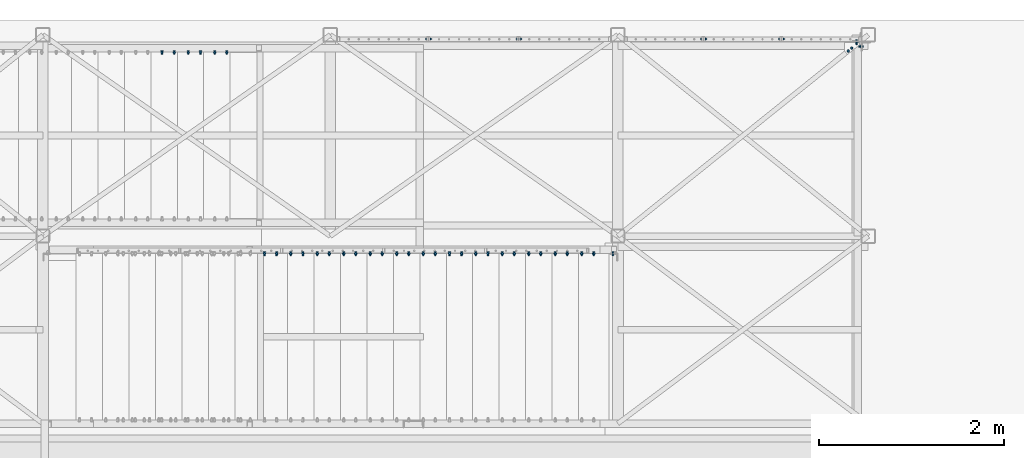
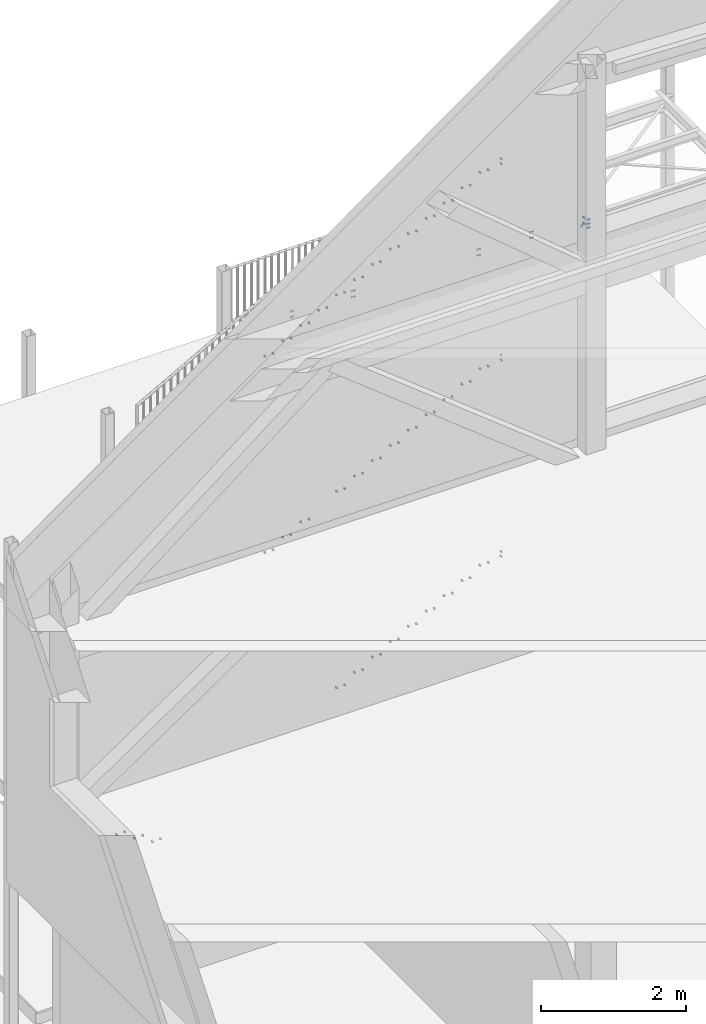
# One storey, part 76 of 78: 47 mechanical fasteners, 9 elements without a shape of their own.
"""IFC2X3 building model written with IfcOpenShell, lengths in millimetres."""

from ifc_helpers import new_model, si_unit, frame, origin_with_axes, origin_2d_with_axis, place, context, subcontext, project, spatial, polyline, circle, outline, extrude, source, transform, mapped, material, type_object, element, aggregate, save


model = new_model("IFC2X3")

# Units and contexts
model_context = context("Model", 3, precision=1e-05, world=origin_with_axes())
body_context = subcontext(model_context, "Body", "Model", "MODEL_VIEW")
ifc_project = project(units=[si_unit("LENGTHUNIT", "METRE", prefix="MILLI"), si_unit("AREAUNIT", "SQUARE_METRE"), si_unit("VOLUMEUNIT", "CUBIC_METRE"), si_unit("MASSUNIT", "GRAM", prefix="KILO"), si_unit("TIMEUNIT", "SECOND"), si_unit("PLANEANGLEUNIT", "RADIAN"), si_unit("SOLIDANGLEUNIT", "STERADIAN"), si_unit("THERMODYNAMICTEMPERATUREUNIT", "DEGREE_CELSIUS"), si_unit("LUMINOUSINTENSITYUNIT", "LUMEN")], contexts=[model_context])

# Site, building, storey
site_placement = place(None, origin_with_axes())
site = spatial("IfcSite", under=ifc_project, at=site_placement, Name="Site", CompositionType="ELEMENT")
building_placement = place(site_placement, origin_with_axes())
building = spatial("IfcBuilding", under=site, at=building_placement, Name="Undefined", CompositionType="ELEMENT")
storey_placement = place(building_placement, origin_with_axes())
storey = spatial("IfcBuildingStorey", under=building, at=storey_placement, Name="Undefined", CompositionType="ELEMENT", Elevation=0.0)

# Assembly, mechanical fastener
assembly_1_placement = place(storey_placement, origin_with_axes())
assembly_1 = element("IfcElementAssembly", 1, at=assembly_1_placement, inside=storey, Name="POUTRE", AssemblyPlace="NOTDEFINED", PredefinedType="RIGID_FRAME")
ifc_material_1 = material(Name="8.8")
mechanical_fastener_type = type_object("IfcMechanicalFastenerType", Name="Bolt assembly")
shared_shape_1 = source(origin_with_axes(), body_context, "Body", "SweptSolid", [
    extrude(circle(Radius=9.0, at=origin_2d_with_axis()), frame((0.0, -9.9, 0.0), z_axis=(0.0, 1.0, 0.0), x_axis=(1.0, 0.0, 0.0)), (0.0, 0.0, 1.0), 10.0),
    extrude(circle(Radius=9.0, at=origin_2d_with_axis()), frame((0.0, -0.0999999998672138, 0.0), z_axis=(0.0, 1.0, 0.0), x_axis=(1.0, 0.0, 0.0)), (0.0, 0.0, 1.0), 9.1),
    extrude(outline(polyline([(13.85640646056, 0.0), (6.92820323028, 12.0000000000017), (-6.92820323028, 12.0000000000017), (-13.85640646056, 0.0), (-6.92820323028, -12.0000000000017), (6.92820323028, -12.0000000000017), (13.85640646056, 0.0)])), frame((0.0, -23.4000000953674, 0.0), z_axis=(0.0, 1.0, 0.0), x_axis=(1.0, 0.0, 0.0)), (0.0, 0.0, 1.0), 10.0),
    extrude(circle(Radius=8.0, at=origin_2d_with_axis()), frame((0.0, -13.4000000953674, 0.0), z_axis=(0.0, 1.0, 0.0), x_axis=(1.0, 0.0, 0.0)), (0.0, 0.0, 1.0), 45.0),
    extrude(circle(Radius=18.5, at=origin_2d_with_axis()), frame((0.0, -13.4000000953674, 0.0), z_axis=(0.0, 1.0, 0.0), x_axis=(1.0, 0.0, 0.0)), (0.0, 0.0, 1.0), 3.4),
    extrude(circle(Radius=18.5, at=origin_2d_with_axis()), frame((0.0, 9.0, 0.0), z_axis=(0.0, 1.0, 0.0), x_axis=(1.0, 0.0, 0.0)), (0.0, 0.0, 1.0), 3.4),
    extrude(outline(polyline([(13.85640646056, 0.0), (6.92820323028, 12.0000000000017), (-6.92820323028, 12.0000000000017), (-13.85640646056, 0.0), (-6.92820323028, -12.0000000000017), (6.92820323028, -12.0000000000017), (13.85640646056, 0.0)])), frame((0.0, 12.4000000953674, 0.0), z_axis=(0.0, 1.0, 0.0), x_axis=(1.0, 0.0, 0.0)), (0.0, 0.0, 1.0), 14.8),
])
mechanical_fastener_1_placement = place(assembly_1_placement, frame((4073.56999999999, 32843.0, 156610.04), z_axis=(-1.0, 0.0, 0.0), x_axis=(0.0, 0.0, -1.0)))
mechanical_fastener_1 = element("IfcMechanicalFastener", 2, at=mechanical_fastener_1_placement, type_object=mechanical_fastener_type, material=ifc_material_1, Name="Bolt assembly", NominalDiameter=16.0, NominalLength=45.0, context=body_context, shape_type="MappedRepresentation", body=[
    mapped(shared_shape_1, transform((0.0, 0.0, 0.0))),
    mapped(shared_shape_1, transform((100.0, 0.0, 0.0))),
])
aggregate(assembly_1, [mechanical_fastener_1])

assembly_2_placement = place(storey_placement, origin_with_axes())
assembly_2 = element("IfcElementAssembly", 3, at=assembly_2_placement, inside=storey, Name="POUTRE", AssemblyPlace="NOTDEFINED", PredefinedType="RIGID_FRAME")
mechanical_fastener_2_placement = place(assembly_2_placement, frame((4123.56999999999, 32793.0, 156590.0400002), z_axis=(0.0, 1.0, 0.0), x_axis=(0.0, 0.0, -1.0)))
mechanical_fastener_2 = element("IfcMechanicalFastener", 4, at=mechanical_fastener_2_placement, type_object=mechanical_fastener_type, material=ifc_material_1, Name="Bolt assembly", NominalDiameter=16.0, NominalLength=45.0, context=body_context, shape_type="MappedRepresentation", body=[
    mapped(shared_shape_1, transform((0.0, 0.0, 0.0))),
    mapped(shared_shape_1, transform((70.0, 0.0, 0.0))),
    mapped(shared_shape_1, transform((140.0, 0.0, 0.0))),
])
aggregate(assembly_2, [mechanical_fastener_2])

# Assembly, mechanical fasteners
assembly_3_placement = place(storey_placement, origin_with_axes())
assembly_3 = element("IfcElementAssembly", 5, at=assembly_3_placement, inside=storey, Name="MAIN_COURANTE", AssemblyPlace="NOTDEFINED", PredefinedType="RIGID_FRAME")
ifc_material_2 = material(Name="INOX-A4")
shared_shape_2 = source(origin_with_axes(), body_context, "Body", "SweptSolid", [
    extrude(circle(Radius=7.0, at=origin_2d_with_axis()), frame((0.0, -7.4, 0.0), z_axis=(0.0, 1.0, 0.0), x_axis=(1.0, 0.0, 0.0)), (0.0, 0.0, 1.0), 15.0),
    extrude(circle(Radius=7.0, at=origin_2d_with_axis()), frame((0.0, 7.4, 0.0), z_axis=(0.0, 1.0, 0.0), x_axis=(1.0, 0.0, 0.0)), (0.0, 0.0, 1.0), 20.1),
    extrude(outline(polyline([(10.96965511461, 0.0), (5.484827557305, 9.50000000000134), (-5.484827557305, 9.50000000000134), (-10.96965511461, 0.0), (-5.484827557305, -9.50000000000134), (5.484827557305, -9.50000000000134), (10.96965511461, 0.0)])), frame((0.0, -18.7000000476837, 0.0), z_axis=(0.0, 1.0, 0.0), x_axis=(1.0, 0.0, 0.0)), (0.0, 0.0, 1.0), 8.0),
    extrude(circle(Radius=6.0, at=origin_2d_with_axis()), frame((0.0, -10.7000000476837, 0.0), z_axis=(0.0, 1.0, 0.0), x_axis=(1.0, 0.0, 0.0)), (0.0, 0.0, 1.0), 60.0),
    extrude(circle(Radius=15.5, at=origin_2d_with_axis()), frame((0.0, -10.7000000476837, 0.0), z_axis=(0.0, 1.0, 0.0), x_axis=(1.0, 0.0, 0.0)), (0.0, 0.0, 1.0), 3.2),
    extrude(circle(Radius=15.5, at=origin_2d_with_axis()), frame((0.0, 27.5, 0.0), z_axis=(0.0, 1.0, 0.0), x_axis=(1.0, 0.0, 0.0)), (0.0, 0.0, 1.0), 3.2),
    extrude(outline(polyline([(10.39230484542, 0.0), (5.19615242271, 9.00000000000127), (-5.19615242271, 9.00000000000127), (-10.39230484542, 0.0), (-5.19615242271, -9.00000000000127), (5.19615242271, -9.00000000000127), (10.39230484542, 0.0)])), frame((0.0, 30.7000000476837, 0.0), z_axis=(0.0, 1.0, 0.0), x_axis=(1.0, 0.0, 0.0)), (0.0, 0.0, 1.0), 10.8),
])
mechanical_fastener_3_placement = place(assembly_3_placement, frame((2411.07000000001, 32872.9999999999, 156585.04), z_axis=(0.0, 0.0, 1.0), x_axis=(0.0, -1.0, 0.0)))
mechanical_fastener_3 = element("IfcMechanicalFastener", 6, at=mechanical_fastener_3_placement, type_object=mechanical_fastener_type, material=ifc_material_2, Name="Bolt assembly", NominalDiameter=12.0, NominalLength=60.0, context=body_context, shape_type="MappedRepresentation", body=[
    mapped(shared_shape_2, transform((0.0, 0.0, -50.0))),
    mapped(shared_shape_2, transform((0.0, 0.0, 50.0))),
])
mechanical_fastener_4_placement = place(assembly_3_placement, frame((3251.07, 32872.9999999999, 156585.04), z_axis=(0.0, 0.0, 1.0), x_axis=(0.0, -1.0, 0.0)))
mechanical_fastener_4 = element("IfcMechanicalFastener", 7, at=mechanical_fastener_4_placement, type_object=mechanical_fastener_type, material=ifc_material_2, Name="Bolt assembly", NominalDiameter=12.0, NominalLength=60.0, context=body_context, shape_type="MappedRepresentation", body=[
    mapped(shared_shape_2, transform((0.0, 0.0, -50.0))),
    mapped(shared_shape_2, transform((0.0, 0.0, 50.0))),
])
aggregate(assembly_3, [mechanical_fastener_3, mechanical_fastener_4])

assembly_4_placement = place(storey_placement, origin_with_axes())
assembly_4 = element("IfcElementAssembly", 8, at=assembly_4_placement, inside=storey, Name="MAIN_COURANTE", AssemblyPlace="NOTDEFINED", PredefinedType="RIGID_FRAME")
mechanical_fastener_5_placement = place(assembly_4_placement, frame((-555.596666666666, 32873.0, 156585.04), z_axis=(0.0, 0.0, 1.0), x_axis=(0.0, -1.0, 0.0)))
mechanical_fastener_5 = element("IfcMechanicalFastener", 9, at=mechanical_fastener_5_placement, type_object=mechanical_fastener_type, material=ifc_material_2, Name="Bolt assembly", NominalDiameter=12.0, NominalLength=60.0, context=body_context, shape_type="MappedRepresentation", body=[
    mapped(shared_shape_2, transform((0.0, 0.0, -50.0))),
    mapped(shared_shape_2, transform((0.0, 0.0, 50.0))),
])
mechanical_fastener_6_placement = place(assembly_4_placement, frame((417.736666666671, 32873.0, 156585.04), z_axis=(0.0, 0.0, 1.0), x_axis=(0.0, -1.0, 0.0)))
mechanical_fastener_6 = element("IfcMechanicalFastener", 10, at=mechanical_fastener_6_placement, type_object=mechanical_fastener_type, material=ifc_material_2, Name="Bolt assembly", NominalDiameter=12.0, NominalLength=60.0, context=body_context, shape_type="MappedRepresentation", body=[
    mapped(shared_shape_2, transform((0.0, 0.0, -50.0))),
    mapped(shared_shape_2, transform((0.0, 0.0, 50.0))),
])
aggregate(assembly_4, [mechanical_fastener_5, mechanical_fastener_6])

# Assembly, mechanical fastener
assembly_5_placement = place(storey_placement, origin_with_axes())
assembly_5 = element("IfcElementAssembly", 11, at=assembly_5_placement, inside=storey, Name="STAB", AssemblyPlace="NOTDEFINED", PredefinedType="RIGID_FRAME")
shared_shape_3 = source(origin_with_axes(), body_context, "Body", "SweptSolid", [
    extrude(circle(Radius=7.0, at=origin_2d_with_axis()), frame((0.0, -5.9, 0.0), z_axis=(0.0, 1.0, 0.0), x_axis=(1.0, 0.0, 0.0)), (0.0, 0.0, 1.0), 6.0),
    extrude(circle(Radius=7.0, at=origin_2d_with_axis()), frame((0.0, -0.0999999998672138, 0.0), z_axis=(0.0, 1.0, 0.0), x_axis=(1.0, 0.0, 0.0)), (0.0, 0.0, 1.0), 5.1),
    extrude(outline(polyline([(10.96965511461, 0.0), (5.484827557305, 9.50000000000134), (-5.484827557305, 9.50000000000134), (-10.96965511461, 0.0), (-5.484827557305, -9.50000000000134), (5.484827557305, -9.50000000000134), (10.96965511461, 0.0)])), frame((0.0, -14.0, 0.0), z_axis=(0.0, 1.0, 0.0), x_axis=(1.0, 0.0, 0.0)), (0.0, 0.0, 1.0), 8.0),
    extrude(circle(Radius=6.0, at=origin_2d_with_axis()), frame((0.0, -6.0, 0.0), z_axis=(0.0, 1.0, 0.0), x_axis=(1.0, 0.0, 0.0)), (0.0, 0.0, 1.0), 30.0),
    extrude(circle(Radius=15.5, at=origin_2d_with_axis()), frame((0.0, 5.0, 0.0), z_axis=(0.0, 1.0, 0.0), x_axis=(1.0, 0.0, 0.0)), (0.0, 0.0, 1.0), 3.2),
    extrude(outline(polyline([(10.39230484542, 0.0), (5.19615242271, 9.00000000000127), (-5.19615242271, 9.00000000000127), (-10.39230484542, 0.0), (-5.19615242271, -9.00000000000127), (5.19615242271, -9.00000000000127), (10.39230484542, 0.0)])), frame((0.0, 8.20000004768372, 0.0), z_axis=(0.0, 1.0, 0.0), x_axis=(1.0, 0.0, 0.0)), (0.0, 0.0, 1.0), 10.8),
])
mechanical_fastener_7_placement = place(assembly_5_placement, frame((4021.53948899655, 32775.719922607, 156557.04), z_axis=(0.626453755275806, -0.779458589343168, 0.0), x_axis=(-0.779458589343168, -0.626453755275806, 0.0)))
mechanical_fastener_7 = element("IfcMechanicalFastener", 12, at=mechanical_fastener_7_placement, type_object=mechanical_fastener_type, material=ifc_material_1, Name="Bolt assembly", NominalDiameter=12.0, NominalLength=30.0, context=body_context, shape_type="MappedRepresentation", body=[
    mapped(shared_shape_3, transform((0.0, 0.0, 0.0))),
    mapped(shared_shape_3, transform((49.9999999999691, 0.0, 7.27595761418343e-12))),
])
aggregate(assembly_5, [mechanical_fastener_7])

assembly_6_placement = place(storey_placement, origin_with_axes())
assembly_6 = element("IfcElementAssembly", 13, at=assembly_6_placement, inside=storey, AssemblyPlace="NOTDEFINED", PredefinedType="RIGID_FRAME")
shared_shape_4 = source(origin_with_axes(), body_context, "Body", "SweptSolid", [
    extrude(circle(Radius=9.0, at=origin_2d_with_axis()), frame((0.0, -0.0999999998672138, 0.0), z_axis=(0.0, 1.0, 0.0), x_axis=(1.0, 0.0, 0.0)), (0.0, 0.0, 1.0), 8.1),
    extrude(circle(Radius=9.0, at=origin_2d_with_axis()), frame((0.0, -8.9, 0.0), z_axis=(0.0, 1.0, 0.0), x_axis=(1.0, 0.0, 0.0)), (0.0, 0.0, 1.0), 9.0),
    extrude(outline(polyline([(13.85640646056, 0.0), (6.92820323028, 12.0000000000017), (-6.92820323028, 12.0000000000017), (-13.85640646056, 0.0), (-6.92820323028, -12.0000000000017), (6.92820323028, -12.0000000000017), (13.85640646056, 0.0)])), frame((0.0, -19.0, 0.0), z_axis=(0.0, 1.0, 0.0), x_axis=(1.0, 0.0, 0.0)), (0.0, 0.0, 1.0), 10.0),
    extrude(circle(Radius=8.0, at=origin_2d_with_axis()), frame((0.0, -9.00000002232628, 0.0), z_axis=(0.0, 1.0, 0.0), x_axis=(1.0, 0.0, 0.0)), (0.0, 0.0, 1.0), 40.0),
    extrude(outline(polyline([(13.85640646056, 0.0), (6.92820323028, 12.0000000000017), (-6.92820323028, 12.0000000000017), (-13.85640646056, 0.0), (-6.92820323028, -12.0000000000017), (6.92820323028, -12.0000000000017), (13.85640646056, 0.0)])), frame((0.0, 8.0, 0.0), z_axis=(0.0, 1.0, 0.0), x_axis=(1.0, 0.0, 0.0)), (0.0, 0.0, 1.0), 14.8),
])
mechanical_fastener_8_placement = place(assembly_6_placement, frame((1495.4700000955, 30562.9999999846, 153300.039999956), z_axis=(-1.0, 0.0, 0.0), x_axis=(0.0, 0.0, -1.0)))
mechanical_fastener_8 = element("IfcMechanicalFastener", 14, at=mechanical_fastener_8_placement, type_object=mechanical_fastener_type, material=ifc_material_1, Name="Bolt assembly", NominalDiameter=16.0, NominalLength=40.0, context=body_context, shape_type="MappedRepresentation", body=[
    mapped(shared_shape_4, transform((0.0, 0.0, 50.0))),
    mapped(shared_shape_4, transform((80.0, 0.0, 50.0))),
])

assembly_7_placement = place(storey_placement, origin_with_axes())
assembly_7 = element("IfcElementAssembly", 15, at=assembly_7_placement, inside=storey, AssemblyPlace="NOTDEFINED", PredefinedType="RIGID_FRAME")
mechanical_fastener_9_placement = place(assembly_7_placement, frame((1495.4700000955, 30562.9999999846, 156600.039999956), z_axis=(-1.0, 0.0, 0.0), x_axis=(0.0, 0.0, -1.0)))
mechanical_fastener_9 = element("IfcMechanicalFastener", 16, at=mechanical_fastener_9_placement, type_object=mechanical_fastener_type, material=ifc_material_1, Name="Bolt assembly", NominalDiameter=16.0, NominalLength=40.0, context=body_context, shape_type="MappedRepresentation", body=[
    mapped(shared_shape_4, transform((0.0, 0.0, 50.0))),
    mapped(shared_shape_4, transform((80.0, 0.0, 50.0))),
])

assembly_8_placement = place(storey_placement, origin_with_axes())
assembly_8 = element("IfcElementAssembly", 17, at=assembly_8_placement, inside=storey, AssemblyPlace="NOTDEFINED", PredefinedType="RIGID_FRAME")
mechanical_fastener_10_placement = place(assembly_8_placement, frame((1495.4700000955, 30562.9999999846, 159900.039999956), z_axis=(-1.0, 0.0, 0.0), x_axis=(0.0, 0.0, -1.0)))
mechanical_fastener_10 = element("IfcMechanicalFastener", 18, at=mechanical_fastener_10_placement, type_object=mechanical_fastener_type, material=ifc_material_1, Name="Bolt assembly", NominalDiameter=16.0, NominalLength=40.0, context=body_context, shape_type="MappedRepresentation", body=[
    mapped(shared_shape_4, transform((0.0, 0.0, 50.0))),
    mapped(shared_shape_4, transform((80.0, 0.0, 50.0))),
])

# Mechanical fastener
ifc_material_3 = material(Name="6.8")
shared_shape_5 = source(origin_with_axes(), body_context, "Body", "SweptSolid", [
    extrude(circle(Radius=6.0, at=origin_2d_with_axis()), frame((0.0, -9.00000002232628, 0.0), z_axis=(0.0, 1.0, 0.0), x_axis=(1.0, 0.0, 0.0)), (0.0, 0.0, 1.0), 9.1),
    extrude(outline(polyline([(10.96965511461, 0.0), (5.484827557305, 9.50000000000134), (-5.484827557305, 9.50000000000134), (-10.96965511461, 0.0), (-5.484827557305, -9.50000000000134), (5.484827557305, -9.50000000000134), (10.96965511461, 0.0)])), frame((0.0, -17.0000000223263, 0.0), z_axis=(0.0, 1.0, 0.0), x_axis=(1.0, 0.0, 0.0)), (0.0, 0.0, 1.0), 8.0),
    extrude(circle(Radius=6.0, at=origin_2d_with_axis()), frame((0.0, -9.00000002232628, 0.0), z_axis=(0.0, 1.0, 0.0), x_axis=(1.0, 0.0, 0.0)), (0.0, 0.0, 1.0), 35.0),
    extrude(circle(Radius=15.5, at=origin_2d_with_axis()), frame((0.0, 0.0, 0.0), z_axis=(0.0, 1.0, 0.0), x_axis=(1.0, 0.0, 0.0)), (0.0, 0.0, 1.0), 3.2),
    extrude(outline(polyline([(10.39230484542, 0.0), (5.19615242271, 9.00000000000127), (-5.19615242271, 9.00000000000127), (-10.39230484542, 0.0), (-5.19615242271, -9.00000000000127), (5.19615242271, -9.00000000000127), (10.39230484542, 0.0)])), frame((0.0, 3.20000004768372, 0.0), z_axis=(0.0, 1.0, 0.0), x_axis=(1.0, 0.0, 0.0)), (0.0, 0.0, 1.0), 10.8),
])
mechanical_fastener_11_placement = place(assembly_6_placement, frame((1108.57000006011, 30563.0000000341, 153187.539999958), z_axis=(0.0, 0.0, -1.0), x_axis=(1.0, 0.0, 0.0)))
mechanical_fastener_11 = element("IfcMechanicalFastener", 19, at=mechanical_fastener_11_placement, type_object=mechanical_fastener_type, material=ifc_material_3, Name="Bolt assembly", NominalDiameter=12.0, NominalLength=35.0, context=body_context, shape_type="MappedRepresentation", body=[
    mapped(shared_shape_5, transform((0.0, 0.0, 0.0))),
    mapped(shared_shape_5, transform((130.0, 0.0, 0.0))),
])

mechanical_fastener_12_placement = place(assembly_6_placement, frame((823.570000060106, 30563.0000000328, 153030.039999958), z_axis=(0.0, 0.0, -1.0), x_axis=(1.0, 0.0, 0.0)))
mechanical_fastener_12 = element("IfcMechanicalFastener", 20, at=mechanical_fastener_12_placement, type_object=mechanical_fastener_type, material=ifc_material_3, Name="Bolt assembly", NominalDiameter=12.0, NominalLength=35.0, context=body_context, shape_type="MappedRepresentation", body=[
    mapped(shared_shape_5, transform((0.0, 0.0, 0.0))),
    mapped(shared_shape_5, transform((130.0, 0.0, 0.0))),
])

mechanical_fastener_13_placement = place(assembly_6_placement, frame((538.570000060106, 30563.0000000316, 152872.539999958), z_axis=(0.0, 0.0, -1.0), x_axis=(1.0, 0.0, 0.0)))
mechanical_fastener_13 = element("IfcMechanicalFastener", 21, at=mechanical_fastener_13_placement, type_object=mechanical_fastener_type, material=ifc_material_3, Name="Bolt assembly", NominalDiameter=12.0, NominalLength=35.0, context=body_context, shape_type="MappedRepresentation", body=[
    mapped(shared_shape_5, transform((0.0, 0.0, 0.0))),
    mapped(shared_shape_5, transform((130.0, 0.0, 0.0))),
])

mechanical_fastener_14_placement = place(assembly_6_placement, frame((253.570000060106, 30563.0000000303, 152715.039999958), z_axis=(0.0, 0.0, -1.0), x_axis=(1.0, 0.0, 0.0)))
mechanical_fastener_14 = element("IfcMechanicalFastener", 22, at=mechanical_fastener_14_placement, type_object=mechanical_fastener_type, material=ifc_material_3, Name="Bolt assembly", NominalDiameter=12.0, NominalLength=35.0, context=body_context, shape_type="MappedRepresentation", body=[
    mapped(shared_shape_5, transform((0.0, 0.0, 0.0))),
    mapped(shared_shape_5, transform((130.0, 0.0, 0.0))),
])

mechanical_fastener_15_placement = place(assembly_6_placement, frame((-31.4299999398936, 30563.0000000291, 152557.539999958), z_axis=(0.0, 0.0, -1.0), x_axis=(1.0, 0.0, 0.0)))
mechanical_fastener_15 = element("IfcMechanicalFastener", 23, at=mechanical_fastener_15_placement, type_object=mechanical_fastener_type, material=ifc_material_3, Name="Bolt assembly", NominalDiameter=12.0, NominalLength=35.0, context=body_context, shape_type="MappedRepresentation", body=[
    mapped(shared_shape_5, transform((0.0, 0.0, 0.0))),
    mapped(shared_shape_5, transform((130.0, 0.0, 0.0))),
])

mechanical_fastener_16_placement = place(assembly_6_placement, frame((-316.429999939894, 30563.0000000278, 152400.039999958), z_axis=(0.0, 0.0, -1.0), x_axis=(1.0, 0.0, 0.0)))
mechanical_fastener_16 = element("IfcMechanicalFastener", 24, at=mechanical_fastener_16_placement, type_object=mechanical_fastener_type, material=ifc_material_3, Name="Bolt assembly", NominalDiameter=12.0, NominalLength=35.0, context=body_context, shape_type="MappedRepresentation", body=[
    mapped(shared_shape_5, transform((0.0, 0.0, 0.0))),
    mapped(shared_shape_5, transform((130.0, 0.0, 0.0))),
])

mechanical_fastener_17_placement = place(assembly_6_placement, frame((-601.429999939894, 30563.0000000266, 152242.539999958), z_axis=(0.0, 0.0, -1.0), x_axis=(1.0, 0.0, 0.0)))
mechanical_fastener_17 = element("IfcMechanicalFastener", 25, at=mechanical_fastener_17_placement, type_object=mechanical_fastener_type, material=ifc_material_3, Name="Bolt assembly", NominalDiameter=12.0, NominalLength=35.0, context=body_context, shape_type="MappedRepresentation", body=[
    mapped(shared_shape_5, transform((0.0, 0.0, 0.0))),
    mapped(shared_shape_5, transform((130.0, 0.0, 0.0))),
])

mechanical_fastener_18_placement = place(assembly_6_placement, frame((-886.429999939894, 30563.0000000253, 152085.039999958), z_axis=(0.0, 0.0, -1.0), x_axis=(1.0, 0.0, 0.0)))
mechanical_fastener_18 = element("IfcMechanicalFastener", 26, at=mechanical_fastener_18_placement, type_object=mechanical_fastener_type, material=ifc_material_3, Name="Bolt assembly", NominalDiameter=12.0, NominalLength=35.0, context=body_context, shape_type="MappedRepresentation", body=[
    mapped(shared_shape_5, transform((0.0, 0.0, 0.0))),
    mapped(shared_shape_5, transform((130.0, 0.0, 0.0))),
])

mechanical_fastener_19_placement = place(assembly_6_placement, frame((-1171.42999993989, 30563.0000000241, 151927.539999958), z_axis=(0.0, 0.0, -1.0), x_axis=(1.0, 0.0, 0.0)))
mechanical_fastener_19 = element("IfcMechanicalFastener", 27, at=mechanical_fastener_19_placement, type_object=mechanical_fastener_type, material=ifc_material_3, Name="Bolt assembly", NominalDiameter=12.0, NominalLength=35.0, context=body_context, shape_type="MappedRepresentation", body=[
    mapped(shared_shape_5, transform((0.0, 0.0, 0.0))),
    mapped(shared_shape_5, transform((130.0, 0.0, 0.0))),
])

aggregate(assembly_6, [mechanical_fastener_8, mechanical_fastener_11, mechanical_fastener_12, mechanical_fastener_13, mechanical_fastener_14, mechanical_fastener_15, mechanical_fastener_16, mechanical_fastener_17, mechanical_fastener_18, mechanical_fastener_19])

# Assembly, mechanical fasteners
assembly_9_placement = place(storey_placement, origin_with_axes())
assembly_9 = element("IfcElementAssembly", 28, at=assembly_9_placement, inside=storey, AssemblyPlace="NOTDEFINED", PredefinedType="RIGID_FRAME")
mechanical_fastener_20_placement = place(assembly_9_placement, frame((-3286.43000009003, 32732.9999999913, 148928.540000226), z_axis=(0.0, 0.0, 1.0), x_axis=(-1.0, 0.0, 0.0)))
mechanical_fastener_20 = element("IfcMechanicalFastener", 29, at=mechanical_fastener_20_placement, type_object=mechanical_fastener_type, material=ifc_material_3, Name="Bolt assembly", NominalDiameter=12.0, NominalLength=35.0, context=body_context, shape_type="MappedRepresentation", body=[
    mapped(shared_shape_5, transform((0.0, 0.0, 0.0))),
    mapped(shared_shape_5, transform((130.0, 0.0, 0.0))),
])
mechanical_fastener_21_placement = place(assembly_9_placement, frame((-3001.43000008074, 32732.9999999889, 148769.040000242), z_axis=(0.0, 0.0, 1.0), x_axis=(-1.0, 0.0, 0.0)))
mechanical_fastener_21 = element("IfcMechanicalFastener", 30, at=mechanical_fastener_21_placement, type_object=mechanical_fastener_type, material=ifc_material_3, Name="Bolt assembly", NominalDiameter=12.0, NominalLength=35.0, context=body_context, shape_type="MappedRepresentation", body=[
    mapped(shared_shape_5, transform((0.0, 0.0, 0.0))),
    mapped(shared_shape_5, transform((130.0, 0.0, 0.0))),
])
mechanical_fastener_22_placement = place(assembly_9_placement, frame((-2716.43000007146, 32732.9999999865, 148609.540000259), z_axis=(0.0, 0.0, 1.0), x_axis=(-1.0, 0.0, 0.0)))
mechanical_fastener_22 = element("IfcMechanicalFastener", 31, at=mechanical_fastener_22_placement, type_object=mechanical_fastener_type, material=ifc_material_3, Name="Bolt assembly", NominalDiameter=12.0, NominalLength=35.0, context=body_context, shape_type="MappedRepresentation", body=[
    mapped(shared_shape_5, transform((0.0, 0.0, 0.0))),
    mapped(shared_shape_5, transform((130.0, 0.0, 0.0))),
])
aggregate(assembly_9, [mechanical_fastener_20, mechanical_fastener_21, mechanical_fastener_22])

# Mechanical fastener
mechanical_fastener_23_placement = place(assembly_7_placement, frame((1108.57000006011, 30563.0000000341, 156487.539999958), z_axis=(0.0, 0.0, -1.0), x_axis=(1.0, 0.0, 0.0)))
mechanical_fastener_23 = element("IfcMechanicalFastener", 32, at=mechanical_fastener_23_placement, type_object=mechanical_fastener_type, material=ifc_material_3, Name="Bolt assembly", NominalDiameter=12.0, NominalLength=35.0, context=body_context, shape_type="MappedRepresentation", body=[
    mapped(shared_shape_5, transform((0.0, 0.0, 0.0))),
    mapped(shared_shape_5, transform((130.0, 0.0, 0.0))),
])

mechanical_fastener_24_placement = place(assembly_7_placement, frame((823.57000006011, 30563.0000000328, 156330.039999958), z_axis=(0.0, 0.0, -1.0), x_axis=(1.0, 0.0, 0.0)))
mechanical_fastener_24 = element("IfcMechanicalFastener", 33, at=mechanical_fastener_24_placement, type_object=mechanical_fastener_type, material=ifc_material_3, Name="Bolt assembly", NominalDiameter=12.0, NominalLength=35.0, context=body_context, shape_type="MappedRepresentation", body=[
    mapped(shared_shape_5, transform((0.0, 0.0, 0.0))),
    mapped(shared_shape_5, transform((130.0, 0.0, 0.0))),
])

mechanical_fastener_25_placement = place(assembly_7_placement, frame((538.57000006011, 30563.0000000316, 156172.539999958), z_axis=(0.0, 0.0, -1.0), x_axis=(1.0, 0.0, 0.0)))
mechanical_fastener_25 = element("IfcMechanicalFastener", 34, at=mechanical_fastener_25_placement, type_object=mechanical_fastener_type, material=ifc_material_3, Name="Bolt assembly", NominalDiameter=12.0, NominalLength=35.0, context=body_context, shape_type="MappedRepresentation", body=[
    mapped(shared_shape_5, transform((0.0, 0.0, 0.0))),
    mapped(shared_shape_5, transform((130.0, 0.0, 0.0))),
])

mechanical_fastener_26_placement = place(assembly_7_placement, frame((253.57000006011, 30563.0000000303, 156015.039999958), z_axis=(0.0, 0.0, -1.0), x_axis=(1.0, 0.0, 0.0)))
mechanical_fastener_26 = element("IfcMechanicalFastener", 35, at=mechanical_fastener_26_placement, type_object=mechanical_fastener_type, material=ifc_material_3, Name="Bolt assembly", NominalDiameter=12.0, NominalLength=35.0, context=body_context, shape_type="MappedRepresentation", body=[
    mapped(shared_shape_5, transform((0.0, 0.0, 0.0))),
    mapped(shared_shape_5, transform((130.0, 0.0, 0.0))),
])

mechanical_fastener_27_placement = place(assembly_7_placement, frame((-31.42999993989, 30563.0000000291, 155857.539999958), z_axis=(0.0, 0.0, -1.0), x_axis=(1.0, 0.0, 0.0)))
mechanical_fastener_27 = element("IfcMechanicalFastener", 36, at=mechanical_fastener_27_placement, type_object=mechanical_fastener_type, material=ifc_material_3, Name="Bolt assembly", NominalDiameter=12.0, NominalLength=35.0, context=body_context, shape_type="MappedRepresentation", body=[
    mapped(shared_shape_5, transform((0.0, 0.0, 0.0))),
    mapped(shared_shape_5, transform((130.0, 0.0, 0.0))),
])

mechanical_fastener_28_placement = place(assembly_7_placement, frame((-316.42999993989, 30563.0000000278, 155700.039999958), z_axis=(0.0, 0.0, -1.0), x_axis=(1.0, 0.0, 0.0)))
mechanical_fastener_28 = element("IfcMechanicalFastener", 37, at=mechanical_fastener_28_placement, type_object=mechanical_fastener_type, material=ifc_material_3, Name="Bolt assembly", NominalDiameter=12.0, NominalLength=35.0, context=body_context, shape_type="MappedRepresentation", body=[
    mapped(shared_shape_5, transform((0.0, 0.0, 0.0))),
    mapped(shared_shape_5, transform((130.0, 0.0, 0.0))),
])

mechanical_fastener_29_placement = place(assembly_7_placement, frame((-601.42999993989, 30563.0000000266, 155542.539999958), z_axis=(0.0, 0.0, -1.0), x_axis=(1.0, 0.0, 0.0)))
mechanical_fastener_29 = element("IfcMechanicalFastener", 38, at=mechanical_fastener_29_placement, type_object=mechanical_fastener_type, material=ifc_material_3, Name="Bolt assembly", NominalDiameter=12.0, NominalLength=35.0, context=body_context, shape_type="MappedRepresentation", body=[
    mapped(shared_shape_5, transform((0.0, 0.0, 0.0))),
    mapped(shared_shape_5, transform((130.0, 0.0, 0.0))),
])

mechanical_fastener_30_placement = place(assembly_7_placement, frame((-886.42999993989, 30563.0000000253, 155385.039999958), z_axis=(0.0, 0.0, -1.0), x_axis=(1.0, 0.0, 0.0)))
mechanical_fastener_30 = element("IfcMechanicalFastener", 39, at=mechanical_fastener_30_placement, type_object=mechanical_fastener_type, material=ifc_material_3, Name="Bolt assembly", NominalDiameter=12.0, NominalLength=35.0, context=body_context, shape_type="MappedRepresentation", body=[
    mapped(shared_shape_5, transform((0.0, 0.0, 0.0))),
    mapped(shared_shape_5, transform((130.0, 0.0, 0.0))),
])

mechanical_fastener_31_placement = place(assembly_7_placement, frame((-1171.42999993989, 30563.0000000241, 155227.539999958), z_axis=(0.0, 0.0, -1.0), x_axis=(1.0, 0.0, 0.0)))
mechanical_fastener_31 = element("IfcMechanicalFastener", 40, at=mechanical_fastener_31_placement, type_object=mechanical_fastener_type, material=ifc_material_3, Name="Bolt assembly", NominalDiameter=12.0, NominalLength=35.0, context=body_context, shape_type="MappedRepresentation", body=[
    mapped(shared_shape_5, transform((0.0, 0.0, 0.0))),
    mapped(shared_shape_5, transform((130.0, 0.0, 0.0))),
])

mechanical_fastener_32_placement = place(assembly_7_placement, frame((-1741.42999993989, 30563.0000000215, 154912.539999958), z_axis=(0.0, 0.0, -1.0), x_axis=(1.0, 0.0, 0.0)))
mechanical_fastener_32 = element("IfcMechanicalFastener", 41, at=mechanical_fastener_32_placement, type_object=mechanical_fastener_type, material=ifc_material_3, Name="Bolt assembly", NominalDiameter=12.0, NominalLength=35.0, context=body_context, shape_type="MappedRepresentation", body=[
    mapped(shared_shape_5, transform((0.0, 0.0, 0.0))),
    mapped(shared_shape_5, transform((130.0, 0.0, 0.0))),
])

mechanical_fastener_33_placement = place(assembly_7_placement, frame((-2026.42999993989, 30563.0000000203, 154755.039999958), z_axis=(0.0, 0.0, -1.0), x_axis=(1.0, 0.0, 0.0)))
mechanical_fastener_33 = element("IfcMechanicalFastener", 42, at=mechanical_fastener_33_placement, type_object=mechanical_fastener_type, material=ifc_material_3, Name="Bolt assembly", NominalDiameter=12.0, NominalLength=35.0, context=body_context, shape_type="MappedRepresentation", body=[
    mapped(shared_shape_5, transform((0.0, 0.0, 0.0))),
    mapped(shared_shape_5, transform((130.0, 0.0, 0.0))),
])

mechanical_fastener_34_placement = place(assembly_7_placement, frame((-2311.42999993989, 30563.000000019, 154597.539999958), z_axis=(0.0, 0.0, -1.0), x_axis=(1.0, 0.0, 0.0)))
mechanical_fastener_34 = element("IfcMechanicalFastener", 43, at=mechanical_fastener_34_placement, type_object=mechanical_fastener_type, material=ifc_material_3, Name="Bolt assembly", NominalDiameter=12.0, NominalLength=35.0, context=body_context, shape_type="MappedRepresentation", body=[
    mapped(shared_shape_5, transform((0.0, 0.0, 0.0))),
    mapped(shared_shape_5, transform((130.0, 0.0, 0.0))),
])

aggregate(assembly_7, [mechanical_fastener_9, mechanical_fastener_23, mechanical_fastener_24, mechanical_fastener_25, mechanical_fastener_26, mechanical_fastener_27, mechanical_fastener_28, mechanical_fastener_29, mechanical_fastener_30, mechanical_fastener_31, mechanical_fastener_32, mechanical_fastener_33, mechanical_fastener_34])

mechanical_fastener_35_placement = place(assembly_8_placement, frame((1108.57000006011, 30563.0000000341, 159787.539999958), z_axis=(0.0, 0.0, -1.0), x_axis=(1.0, 0.0, 0.0)))
mechanical_fastener_35 = element("IfcMechanicalFastener", 44, at=mechanical_fastener_35_placement, type_object=mechanical_fastener_type, material=ifc_material_3, Name="Bolt assembly", NominalDiameter=12.0, NominalLength=35.0, context=body_context, shape_type="MappedRepresentation", body=[
    mapped(shared_shape_5, transform((0.0, 0.0, 0.0))),
    mapped(shared_shape_5, transform((130.0, 0.0, 0.0))),
])

mechanical_fastener_36_placement = place(assembly_8_placement, frame((823.570000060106, 30563.0000000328, 159630.039999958), z_axis=(0.0, 0.0, -1.0), x_axis=(1.0, 0.0, 0.0)))
mechanical_fastener_36 = element("IfcMechanicalFastener", 45, at=mechanical_fastener_36_placement, type_object=mechanical_fastener_type, material=ifc_material_3, Name="Bolt assembly", NominalDiameter=12.0, NominalLength=35.0, context=body_context, shape_type="MappedRepresentation", body=[
    mapped(shared_shape_5, transform((0.0, 0.0, 0.0))),
    mapped(shared_shape_5, transform((130.0, 0.0, 0.0))),
])

mechanical_fastener_37_placement = place(assembly_8_placement, frame((538.570000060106, 30563.0000000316, 159472.539999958), z_axis=(0.0, 0.0, -1.0), x_axis=(1.0, 0.0, 0.0)))
mechanical_fastener_37 = element("IfcMechanicalFastener", 46, at=mechanical_fastener_37_placement, type_object=mechanical_fastener_type, material=ifc_material_3, Name="Bolt assembly", NominalDiameter=12.0, NominalLength=35.0, context=body_context, shape_type="MappedRepresentation", body=[
    mapped(shared_shape_5, transform((0.0, 0.0, 0.0))),
    mapped(shared_shape_5, transform((130.0, 0.0, 0.0))),
])

mechanical_fastener_38_placement = place(assembly_8_placement, frame((253.570000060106, 30563.0000000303, 159315.039999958), z_axis=(0.0, 0.0, -1.0), x_axis=(1.0, 0.0, 0.0)))
mechanical_fastener_38 = element("IfcMechanicalFastener", 47, at=mechanical_fastener_38_placement, type_object=mechanical_fastener_type, material=ifc_material_3, Name="Bolt assembly", NominalDiameter=12.0, NominalLength=35.0, context=body_context, shape_type="MappedRepresentation", body=[
    mapped(shared_shape_5, transform((0.0, 0.0, 0.0))),
    mapped(shared_shape_5, transform((130.0, 0.0, 0.0))),
])

mechanical_fastener_39_placement = place(assembly_8_placement, frame((-31.4299999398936, 30563.0000000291, 159157.539999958), z_axis=(0.0, 0.0, -1.0), x_axis=(1.0, 0.0, 0.0)))
mechanical_fastener_39 = element("IfcMechanicalFastener", 48, at=mechanical_fastener_39_placement, type_object=mechanical_fastener_type, material=ifc_material_3, Name="Bolt assembly", NominalDiameter=12.0, NominalLength=35.0, context=body_context, shape_type="MappedRepresentation", body=[
    mapped(shared_shape_5, transform((0.0, 0.0, 0.0))),
    mapped(shared_shape_5, transform((130.0, 0.0, 0.0))),
])

mechanical_fastener_40_placement = place(assembly_8_placement, frame((-316.429999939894, 30563.0000000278, 159000.039999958), z_axis=(0.0, 0.0, -1.0), x_axis=(1.0, 0.0, 0.0)))
mechanical_fastener_40 = element("IfcMechanicalFastener", 49, at=mechanical_fastener_40_placement, type_object=mechanical_fastener_type, material=ifc_material_3, Name="Bolt assembly", NominalDiameter=12.0, NominalLength=35.0, context=body_context, shape_type="MappedRepresentation", body=[
    mapped(shared_shape_5, transform((0.0, 0.0, 0.0))),
    mapped(shared_shape_5, transform((130.0, 0.0, 0.0))),
])

mechanical_fastener_41_placement = place(assembly_8_placement, frame((-601.429999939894, 30563.0000000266, 158842.539999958), z_axis=(0.0, 0.0, -1.0), x_axis=(1.0, 0.0, 0.0)))
mechanical_fastener_41 = element("IfcMechanicalFastener", 50, at=mechanical_fastener_41_placement, type_object=mechanical_fastener_type, material=ifc_material_3, Name="Bolt assembly", NominalDiameter=12.0, NominalLength=35.0, context=body_context, shape_type="MappedRepresentation", body=[
    mapped(shared_shape_5, transform((0.0, 0.0, 0.0))),
    mapped(shared_shape_5, transform((130.0, 0.0, 0.0))),
])

mechanical_fastener_42_placement = place(assembly_8_placement, frame((-886.429999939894, 30563.0000000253, 158685.039999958), z_axis=(0.0, 0.0, -1.0), x_axis=(1.0, 0.0, 0.0)))
mechanical_fastener_42 = element("IfcMechanicalFastener", 51, at=mechanical_fastener_42_placement, type_object=mechanical_fastener_type, material=ifc_material_3, Name="Bolt assembly", NominalDiameter=12.0, NominalLength=35.0, context=body_context, shape_type="MappedRepresentation", body=[
    mapped(shared_shape_5, transform((0.0, 0.0, 0.0))),
    mapped(shared_shape_5, transform((130.0, 0.0, 0.0))),
])

mechanical_fastener_43_placement = place(assembly_8_placement, frame((-1171.42999993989, 30563.0000000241, 158527.539999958), z_axis=(0.0, 0.0, -1.0), x_axis=(1.0, 0.0, 0.0)))
mechanical_fastener_43 = element("IfcMechanicalFastener", 52, at=mechanical_fastener_43_placement, type_object=mechanical_fastener_type, material=ifc_material_3, Name="Bolt assembly", NominalDiameter=12.0, NominalLength=35.0, context=body_context, shape_type="MappedRepresentation", body=[
    mapped(shared_shape_5, transform((0.0, 0.0, 0.0))),
    mapped(shared_shape_5, transform((130.0, 0.0, 0.0))),
])

mechanical_fastener_44_placement = place(assembly_8_placement, frame((-1456.42999993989, 30563.0000000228, 158370.039999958), z_axis=(0.0, 0.0, -1.0), x_axis=(1.0, 0.0, 0.0)))
mechanical_fastener_44 = element("IfcMechanicalFastener", 53, at=mechanical_fastener_44_placement, type_object=mechanical_fastener_type, material=ifc_material_3, Name="Bolt assembly", NominalDiameter=12.0, NominalLength=35.0, context=body_context, shape_type="MappedRepresentation", body=[
    mapped(shared_shape_5, transform((0.0, 0.0, 0.0))),
    mapped(shared_shape_5, transform((130.0, 0.0, 0.0))),
])

mechanical_fastener_45_placement = place(assembly_8_placement, frame((-1741.42999993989, 30563.0000000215, 158212.539999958), z_axis=(0.0, 0.0, -1.0), x_axis=(1.0, 0.0, 0.0)))
mechanical_fastener_45 = element("IfcMechanicalFastener", 54, at=mechanical_fastener_45_placement, type_object=mechanical_fastener_type, material=ifc_material_3, Name="Bolt assembly", NominalDiameter=12.0, NominalLength=35.0, context=body_context, shape_type="MappedRepresentation", body=[
    mapped(shared_shape_5, transform((0.0, 0.0, 0.0))),
    mapped(shared_shape_5, transform((130.0, 0.0, 0.0))),
])

mechanical_fastener_46_placement = place(assembly_8_placement, frame((-2026.42999993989, 30563.0000000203, 158055.039999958), z_axis=(0.0, 0.0, -1.0), x_axis=(1.0, 0.0, 0.0)))
mechanical_fastener_46 = element("IfcMechanicalFastener", 55, at=mechanical_fastener_46_placement, type_object=mechanical_fastener_type, material=ifc_material_3, Name="Bolt assembly", NominalDiameter=12.0, NominalLength=35.0, context=body_context, shape_type="MappedRepresentation", body=[
    mapped(shared_shape_5, transform((0.0, 0.0, 0.0))),
    mapped(shared_shape_5, transform((130.0, 0.0, 0.0))),
])

mechanical_fastener_47_placement = place(assembly_8_placement, frame((-2311.42999993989, 30563.000000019, 157897.539999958), z_axis=(0.0, 0.0, -1.0), x_axis=(1.0, 0.0, 0.0)))
mechanical_fastener_47 = element("IfcMechanicalFastener", 56, at=mechanical_fastener_47_placement, type_object=mechanical_fastener_type, material=ifc_material_3, Name="Bolt assembly", NominalDiameter=12.0, NominalLength=35.0, context=body_context, shape_type="MappedRepresentation", body=[
    mapped(shared_shape_5, transform((0.0, 0.0, 0.0))),
    mapped(shared_shape_5, transform((130.0, 0.0, 0.0))),
])

aggregate(assembly_8, [mechanical_fastener_10, mechanical_fastener_35, mechanical_fastener_36, mechanical_fastener_37, mechanical_fastener_38, mechanical_fastener_39, mechanical_fastener_40, mechanical_fastener_41, mechanical_fastener_42, mechanical_fastener_43, mechanical_fastener_44, mechanical_fastener_45, mechanical_fastener_46, mechanical_fastener_47])

save(model, "model.ifc")
